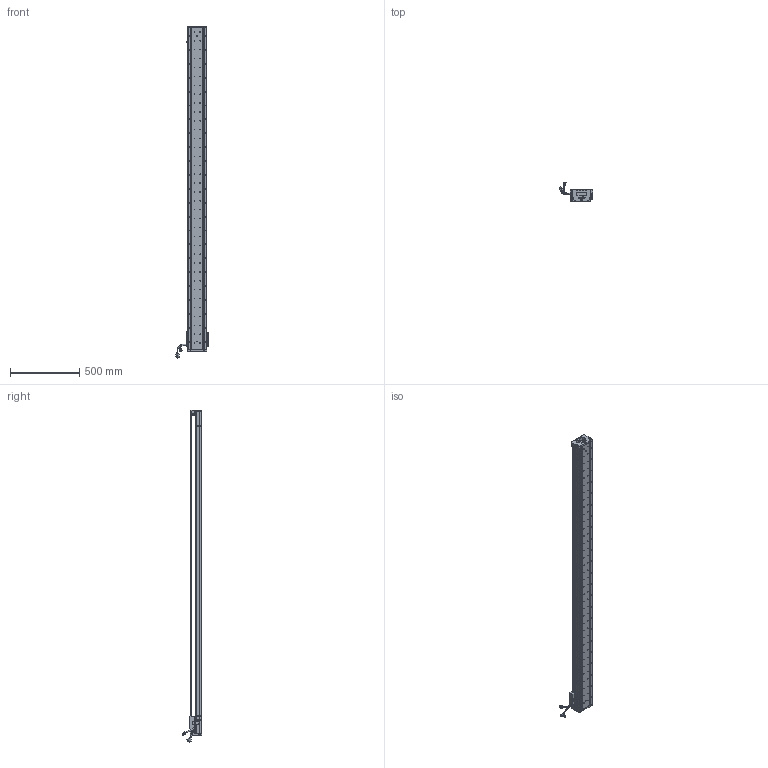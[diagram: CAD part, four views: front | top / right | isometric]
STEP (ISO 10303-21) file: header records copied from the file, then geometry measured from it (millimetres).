
FILE_DESCRIPTION (( 'STEP AP203' ), '1' );
FILE_NAME ('Z1-RY140D-1-L500-B-K.SLDASM_2150.step', '2021-05-17T07:34:14', ( '盈信电脑' ), ( '东莞市道滘镇水果街19号' ), 'SwSTEP 2.0', 'SolidWorks 2016', '' );
FILE_SCHEMA (( 'CONFIG_CONTROL_DESIGN' ));
Length unit declared in the file: millimetre
Products named in the file (36): Z-140詩湍傷裔啣; LABEL; SEAL-Part-1; 080黍杅芛假蚾釱21遴; 140蚥薯蝶輸; Z1-RY140-L500直线电机模组底座_2150; SCALE; 140雄赽晤鎢ん堤盄; SHIELDPLATE; Z-RY140感应器672光电感应片; 榋妏寠巭燃_暯_M2_2; Z-RY140詩湍狟揤裔; SEAL; Z1-RY140圉猾敕臏賑輸(21遴); HARNESS; HARNESS-Part-1; 140-Z-臏賑輸盄裔(21遴); Z1-RY140D-1-L500-B-K.SLDASM_2150; HOLDER0; SCREW-M1.6-3; COVER; Z1-RY140-L500詩湍100mm遵_2150; 覜茼ん672; LABEL-Part-1; SCREW-M1.6-1; PSLH080_PSLF2; SCREW-M1.7-1; SCALE-Part-2; Z-RY140詩湍奻揤裔; SCREW-M1.6-2; SCREW-M1.7; PBU_SHEET; HARNESS-Part-2; COVER-Part-1; SCREW-M1.6; SCALE-Part-1
Assembly tree (41 placements, depth 4):
  Z1-RY140D-1-L500-B-K.SLDASM_2150
    Z1-RY140-L500直线电机模组底座_2150
    Z-RY140感应器672光电感应片
    Z1-RY140圉猾敕臏賑輸(21遴)
    覜茼ん672  x3
    Z1-RY140-L500詩湍100mm遵_2150
    PSLH080_PSLF2
      SCALE
        SCALE-Part-1
        SCALE-Part-2
      HARNESS
        HARNESS-Part-1
        HARNESS-Part-2
      LABEL
        LABEL-Part-1
      COVER
        COVER-Part-1
      SEAL
        SEAL-Part-1
      榋妏寠巭燃_暯_M2_2
      SHIELDPLATE
      SCREW-M1.7
      SCREW-M1.7-1
      PBU_SHEET
      SCREW-M1.6
      SCREW-M1.6-1
      SCREW-M1.6-2
      SCREW-M1.6-3
      HOLDER0
    080黍杅芛假蚾釱21遴
    140-Z-臏賑輸盄裔(21遴)
    Z-140詩湍傷裔啣  x2
    Z-RY140詩湍狟揤裔  x2
    Z-RY140詩湍奻揤裔  x2
    140蚥薯蝶輸  x2
    140雄赽晤鎢ん堤盄
Bounding box: 239.84 x 143.88 x 2390.87 mm (x, y, z)
Volume: 7370097.3 mm3; surface area: 1956344.8 mm2
Topology: 36 solids, 36 shells, 3816 faces, 10358 edges, 6569 vertices
Faces by surface type: cylinder 2024, plane 1316, cone 354, torus 69, bspline 53
Entity records: 119998 total; most frequent: CARTESIAN_POINT 33743, ORIENTED_EDGE 17700, DIRECTION 16414, EDGE_CURVE 8850, AXIS2_PLACEMENT_3D 6072, VERTEX_POINT 5737, LINE 4270, VECTOR 4270
